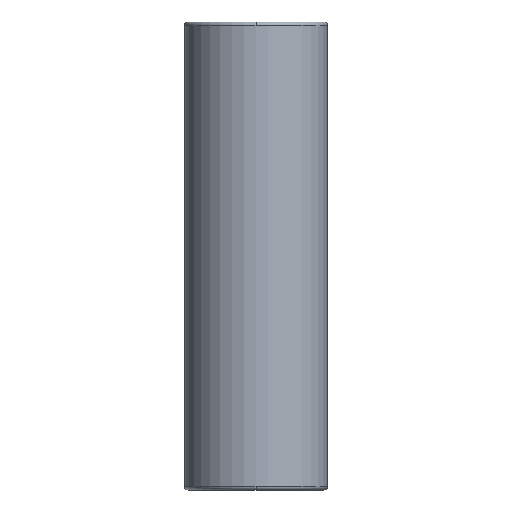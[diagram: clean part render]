
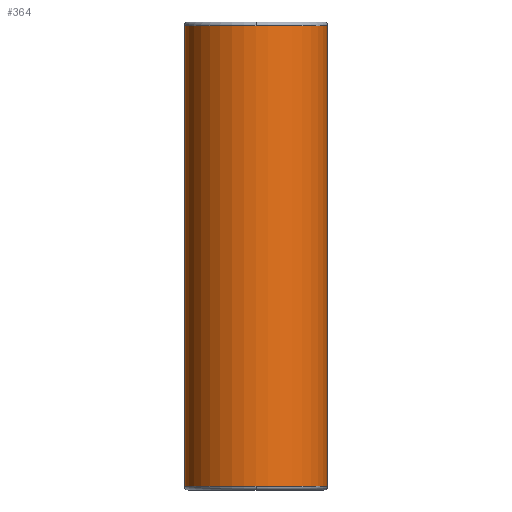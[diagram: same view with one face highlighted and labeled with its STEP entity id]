
A CAD part, front view. The second image highlights one B-rep face of the part: STEP entity #364.
In plain terms, the highlighted cylindrical face has radius 40.492 mm (diameter 80.984 mm), a partial arc.
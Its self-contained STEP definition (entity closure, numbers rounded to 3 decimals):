
#269=CARTESIAN_POINT('',(0.0,-40.492,263.0));
#270=VERTEX_POINT('',#269);
#296=CARTESIAN_POINT('',(-40.492,0.,263.0));
#297=VERTEX_POINT('',#296);
#305=CARTESIAN_POINT('',(0.0,0.,263.0));
#306=DIRECTION('',(0.0,0.0,1.0));
#307=DIRECTION('',(1.0,0.0,0.0));
#308=AXIS2_PLACEMENT_3D('',#305,#306,#307);
#309=CIRCLE('',#308,40.492);
#310=EDGE_CURVE('',#297,#270,#309,.T.);
#315=CARTESIAN_POINT('',(0.0,0.,132.5));
#316=DIRECTION('',(0.0,0.,1.0));
#317=DIRECTION('',(1.0,0.0,0.0));
#318=AXIS2_PLACEMENT_3D('',#315,#316,#317);
#319=CYLINDRICAL_SURFACE('',#318,40.492);
#320=CARTESIAN_POINT('',(40.492,0.,263.0));
#321=VERTEX_POINT('',#320);
#322=CARTESIAN_POINT('',(40.492,0.,2.));
#323=VERTEX_POINT('',#322);
#324=CARTESIAN_POINT('',(40.492,0.,263.0));
#325=DIRECTION('',(0.0,0.0,-1.0));
#326=VECTOR('',#325,261.0);
#327=LINE('',#324,#326);
#328=EDGE_CURVE('',#321,#323,#327,.T.);
#329=ORIENTED_EDGE('',*,*,#328,.F.);
#330=CARTESIAN_POINT('',(0.0,0.,263.0));
#331=DIRECTION('',(0.0,0.0,1.0));
#332=DIRECTION('',(1.0,0.0,0.0));
#333=AXIS2_PLACEMENT_3D('',#330,#331,#332);
#334=CIRCLE('',#333,40.492);
#335=EDGE_CURVE('',#270,#321,#334,.T.);
#336=ORIENTED_EDGE('',*,*,#335,.F.);
#337=ORIENTED_EDGE('',*,*,#310,.F.);
#338=CARTESIAN_POINT('',(-40.492,0.,2.0));
#339=VERTEX_POINT('',#338);
#340=CARTESIAN_POINT('',(-40.492,0.,263.0));
#341=DIRECTION('',(0.0,0.0,-1.0));
#342=VECTOR('',#341,261.0);
#343=LINE('',#340,#342);
#344=EDGE_CURVE('',#297,#339,#343,.T.);
#345=ORIENTED_EDGE('',*,*,#344,.T.);
#346=CARTESIAN_POINT('',(0.0,-40.492,2.));
#347=VERTEX_POINT('',#346);
#348=CARTESIAN_POINT('',(0.0,0.,2.0));
#349=DIRECTION('',(0.0,0.0,1.0));
#350=DIRECTION('',(1.0,0.0,0.0));
#351=AXIS2_PLACEMENT_3D('',#348,#349,#350);
#352=CIRCLE('',#351,40.492);
#353=EDGE_CURVE('',#339,#347,#352,.T.);
#354=ORIENTED_EDGE('',*,*,#353,.T.);
#355=CARTESIAN_POINT('',(0.0,0.,2.0));
#356=DIRECTION('',(0.0,0.0,1.0));
#357=DIRECTION('',(1.0,0.0,0.0));
#358=AXIS2_PLACEMENT_3D('',#355,#356,#357);
#359=CIRCLE('',#358,40.492);
#360=EDGE_CURVE('',#347,#323,#359,.T.);
#361=ORIENTED_EDGE('',*,*,#360,.T.);
#362=EDGE_LOOP('',(#329,#336,#337,#345,#354,#361));
#363=FACE_OUTER_BOUND('',#362,.T.);
#364=ADVANCED_FACE('',(#363),#319,.T.);
